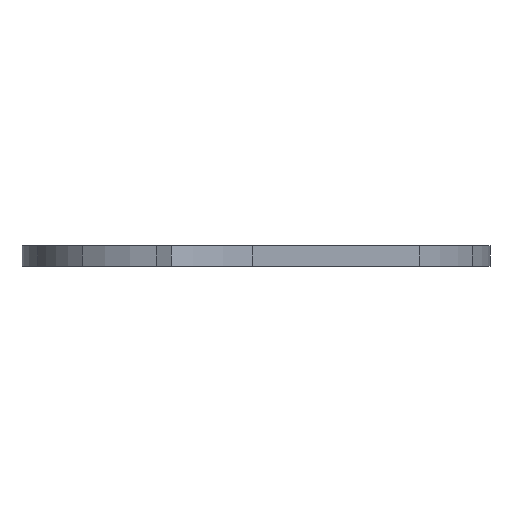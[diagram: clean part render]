
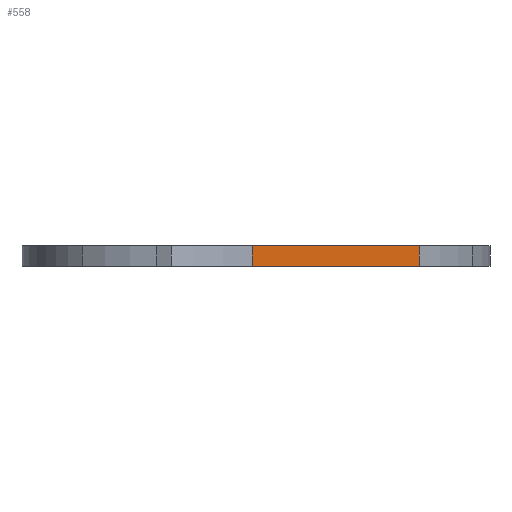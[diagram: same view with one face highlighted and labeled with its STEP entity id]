
A CAD part, front view. The second image highlights one B-rep face of the part: STEP entity #558.
In plain terms, the highlighted planar face has unit normal (0, -1, 0).
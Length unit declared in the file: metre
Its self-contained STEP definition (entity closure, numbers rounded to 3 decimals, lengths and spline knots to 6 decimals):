
#210=ORIENTED_EDGE('',*,*,#358,.T.);
#211=ORIENTED_EDGE('',*,*,#359,.T.);
#212=ORIENTED_EDGE('',*,*,#355,.F.);
#213=ORIENTED_EDGE('',*,*,#360,.F.);
#355=EDGE_CURVE('',#417,#418,#435,.T.);
#358=EDGE_CURVE('',#419,#420,#436,.F.);
#359=EDGE_CURVE('',#420,#418,#437,.T.);
#360=EDGE_CURVE('',#419,#417,#438,.F.);
#417=VERTEX_POINT('',#1045);
#418=VERTEX_POINT('',#1046);
#419=VERTEX_POINT('',#1051);
#420=VERTEX_POINT('',#1052);
#435=LINE('',#1044,#455);
#436=LINE('',#1050,#456);
#437=LINE('',#1053,#457);
#438=LINE('',#1054,#458);
#455=VECTOR('',#802,1.);
#456=VECTOR('',#809,1.);
#457=VECTOR('',#810,1.);
#458=VECTOR('',#811,1.);
#488=EDGE_LOOP('',(#210,#211,#212,#213));
#519=FACE_BOUND('',#488,.T.);
#527=PLANE('',#640);
#558=ADVANCED_FACE('',(#519),#527,.T.);
#640=AXIS2_PLACEMENT_3D('',#1049,#807,#808);
#802=DIRECTION('',(0.,0.,-1.));
#807=DIRECTION('',(0.,-1.,0.));
#808=DIRECTION('',(1.,0.,0.));
#809=DIRECTION('',(0.,0.,1.));
#810=DIRECTION('',(1.,0.,0.));
#811=DIRECTION('',(-1.,0.,0.));
#1044=CARTESIAN_POINT('',(-0.022344,-0.002508,-0.03));
#1045=CARTESIAN_POINT('',(-0.022344,-0.002508,-0.03));
#1046=CARTESIAN_POINT('',(-0.022344,-0.002508,-0.03005));
#1049=CARTESIAN_POINT('',(-0.022759,-0.002508,-0.03));
#1050=CARTESIAN_POINT('',(-0.022759,-0.002508,-0.03));
#1051=CARTESIAN_POINT('',(-0.022759,-0.002508,-0.03));
#1052=CARTESIAN_POINT('',(-0.022759,-0.002508,-0.03005));
#1053=CARTESIAN_POINT('',(-0.022759,-0.002508,-0.03005));
#1054=CARTESIAN_POINT('',(-0.022736,-0.002508,-0.03));
